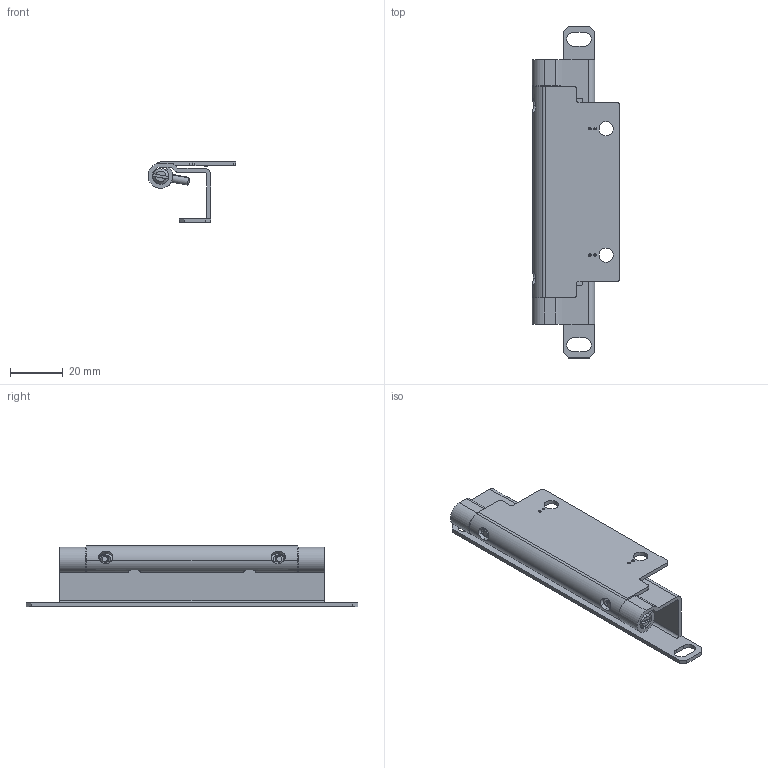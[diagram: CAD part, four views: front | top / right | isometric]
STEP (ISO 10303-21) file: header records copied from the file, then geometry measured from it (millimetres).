
FILE_DESCRIPTION (( 'STEP AP203' ), '1' );
FILE_NAME ('CL268S00001+CL268-1蝓蟈.STEP', '2023-03-14T09:58:43', ( 'SJ' ), ( '' ), 'SwSTEP 2.0', 'SolidWorks 2020', '' );
FILE_SCHEMA (( 'CONFIG_CONTROL_DESIGN' ));
Length unit declared in the file: millimetre
Products named in the file (6): 8SJ.CL268-1.0450雄蝓蟈; 8SJ.CL268-1.0090蛌粣; 8SJ.CL268.0460隅蝓蟈CL268-1隅蝓蟈; CL268S00001+CL268-1蝓蟈; 8SJ.CL268-1.0710粟銅; 8SJ.CL268-1.0570种赽
Assembly tree (7 placements, depth 2):
  CL268S00001+CL268-1蝓蟈
    8SJ.CL268.0460隅蝓蟈CL268-1隅蝓蟈
    8SJ.CL268-1.0090蛌粣  x2
    8SJ.CL268-1.0450雄蝓蟈
    8SJ.CL268-1.0710粟銅
    8SJ.CL268-1.0570种赽  x2
Bounding box: 33.27 x 126 x 23.48 mm (x, y, z)
Volume: 13860.8 mm3; surface area: 19092.3 mm2
Topology: 7 solids, 7 shells, 392 faces, 972 edges, 630 vertices
Faces by surface type: plane 230, cylinder 90, cone 28, bspline 28, torus 16
Entity records: 12074 total; most frequent: CARTESIAN_POINT 4738, ORIENTED_EDGE 1392, DIRECTION 1376, EDGE_CURVE 696, AXIS2_PLACEMENT_3D 500, VERTEX_POINT 452, LINE 376, VECTOR 376
